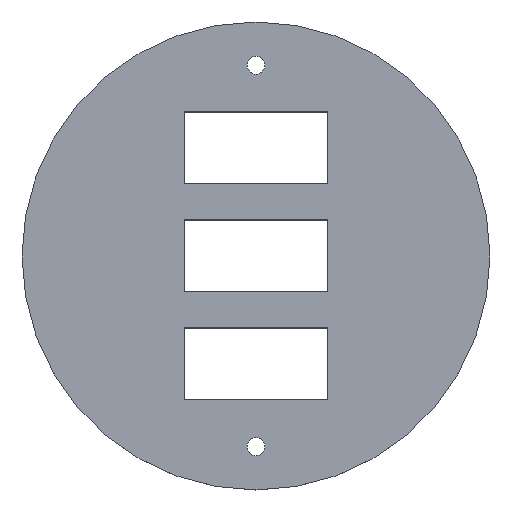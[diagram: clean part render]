
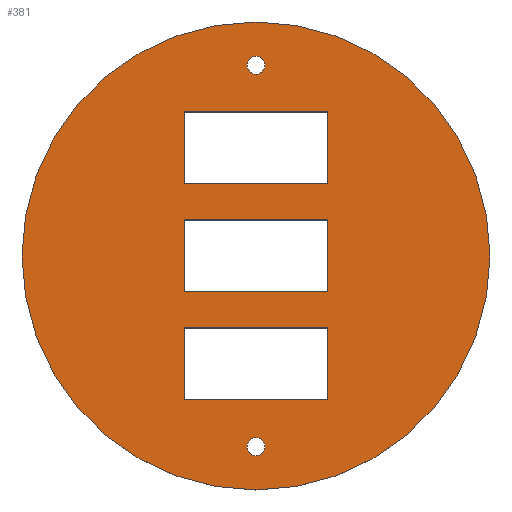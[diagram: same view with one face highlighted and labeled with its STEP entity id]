
A CAD part, top view. The second image highlights one B-rep face of the part: STEP entity #381.
In plain terms, the highlighted planar face has unit normal (0, 0, 1).
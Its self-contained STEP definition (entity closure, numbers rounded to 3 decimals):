
#18=FACE_BOUND('',#82,.T.);
#19=FACE_BOUND('',#83,.T.);
#20=FACE_BOUND('',#84,.T.);
#21=FACE_BOUND('',#85,.T.);
#22=FACE_BOUND('',#86,.T.);
#40=PLANE('',#428);
#62=FACE_OUTER_BOUND('',#81,.T.);
#81=EDGE_LOOP('',(#332));
#82=EDGE_LOOP('',(#333));
#83=EDGE_LOOP('',(#334));
#84=EDGE_LOOP('',(#335,#336,#337,#338));
#85=EDGE_LOOP('',(#339,#340,#341,#342));
#86=EDGE_LOOP('',(#343,#344,#345,#346));
#97=LINE('',#551,#138);
#101=LINE('',#559,#142);
#104=LINE('',#565,#145);
#107=LINE('',#570,#148);
#109=LINE('',#575,#150);
#113=LINE('',#583,#154);
#116=LINE('',#589,#157);
#119=LINE('',#594,#160);
#121=LINE('',#599,#162);
#125=LINE('',#607,#166);
#128=LINE('',#613,#169);
#131=LINE('',#618,#172);
#138=VECTOR('',#458,10.);
#142=VECTOR('',#464,10.);
#145=VECTOR('',#469,10.);
#148=VECTOR('',#474,10.);
#150=VECTOR('',#478,10.);
#154=VECTOR('',#484,10.);
#157=VECTOR('',#489,10.);
#160=VECTOR('',#494,10.);
#162=VECTOR('',#498,10.);
#166=VECTOR('',#504,10.);
#169=VECTOR('',#509,10.);
#172=VECTOR('',#514,10.);
#177=CIRCLE('',#407,1.25);
#180=CIRCLE('',#412,1.25);
#181=CIRCLE('',#426,32.5);
#185=VERTEX_POINT('',#535);
#188=VERTEX_POINT('',#545);
#189=VERTEX_POINT('',#549);
#190=VERTEX_POINT('',#550);
#193=VERTEX_POINT('',#558);
#195=VERTEX_POINT('',#564);
#197=VERTEX_POINT('',#573);
#198=VERTEX_POINT('',#574);
#201=VERTEX_POINT('',#582);
#203=VERTEX_POINT('',#588);
#205=VERTEX_POINT('',#597);
#206=VERTEX_POINT('',#598);
#209=VERTEX_POINT('',#606);
#211=VERTEX_POINT('',#612);
#213=VERTEX_POINT('',#621);
#219=EDGE_CURVE('',#185,#185,#177,.T.);
#224=EDGE_CURVE('',#188,#188,#180,.T.);
#225=EDGE_CURVE('',#189,#190,#97,.T.);
#229=EDGE_CURVE('',#193,#189,#101,.T.);
#232=EDGE_CURVE('',#195,#193,#104,.T.);
#235=EDGE_CURVE('',#190,#195,#107,.T.);
#237=EDGE_CURVE('',#197,#198,#109,.T.);
#241=EDGE_CURVE('',#201,#197,#113,.T.);
#244=EDGE_CURVE('',#203,#201,#116,.T.);
#247=EDGE_CURVE('',#198,#203,#119,.T.);
#249=EDGE_CURVE('',#205,#206,#121,.T.);
#253=EDGE_CURVE('',#209,#205,#125,.T.);
#256=EDGE_CURVE('',#211,#209,#128,.T.);
#259=EDGE_CURVE('',#206,#211,#131,.T.);
#261=EDGE_CURVE('',#213,#213,#181,.T.);
#332=ORIENTED_EDGE('',*,*,#261,.T.);
#333=ORIENTED_EDGE('',*,*,#219,.T.);
#334=ORIENTED_EDGE('',*,*,#224,.T.);
#335=ORIENTED_EDGE('',*,*,#225,.T.);
#336=ORIENTED_EDGE('',*,*,#235,.T.);
#337=ORIENTED_EDGE('',*,*,#232,.T.);
#338=ORIENTED_EDGE('',*,*,#229,.T.);
#339=ORIENTED_EDGE('',*,*,#237,.T.);
#340=ORIENTED_EDGE('',*,*,#247,.T.);
#341=ORIENTED_EDGE('',*,*,#244,.T.);
#342=ORIENTED_EDGE('',*,*,#241,.T.);
#343=ORIENTED_EDGE('',*,*,#249,.T.);
#344=ORIENTED_EDGE('',*,*,#259,.T.);
#345=ORIENTED_EDGE('',*,*,#256,.T.);
#346=ORIENTED_EDGE('',*,*,#253,.T.);
#381=ADVANCED_FACE('',(#62,#18,#19,#20,#21,#22),#40,.T.);
#407=AXIS2_PLACEMENT_3D('',#537,#442,#443);
#412=AXIS2_PLACEMENT_3D('',#547,#454,#455);
#426=AXIS2_PLACEMENT_3D('',#622,#518,#519);
#428=AXIS2_PLACEMENT_3D('',#626,#523,#524);
#442=DIRECTION('center_axis',(0.,0.,-1.));
#443=DIRECTION('ref_axis',(-1.,0.,0.));
#454=DIRECTION('center_axis',(0.,0.,-1.));
#455=DIRECTION('ref_axis',(-1.,0.,0.));
#458=DIRECTION('',(0.,-1.,0.));
#464=DIRECTION('',(1.,0.,0.));
#469=DIRECTION('',(0.,1.,0.));
#474=DIRECTION('',(-1.,0.,0.));
#478=DIRECTION('',(1.,0.,0.));
#484=DIRECTION('',(0.,1.,0.));
#489=DIRECTION('',(-1.,0.,0.));
#494=DIRECTION('',(0.,-1.,0.));
#498=DIRECTION('',(0.,-1.,0.));
#504=DIRECTION('',(1.,0.,0.));
#509=DIRECTION('',(0.,1.,0.));
#514=DIRECTION('',(-1.,0.,0.));
#518=DIRECTION('center_axis',(0.,0.,1.));
#519=DIRECTION('ref_axis',(1.,0.,0.));
#523=DIRECTION('center_axis',(0.,0.,1.));
#524=DIRECTION('ref_axis',(1.,0.,0.));
#535=CARTESIAN_POINT('',(1.25,-26.5,2.5));
#537=CARTESIAN_POINT('Origin',(0.,-26.5,2.5));
#545=CARTESIAN_POINT('',(1.25,26.5,2.5));
#547=CARTESIAN_POINT('Origin',(0.,26.5,2.5));
#549=CARTESIAN_POINT('',(10.,-10.,2.5));
#550=CARTESIAN_POINT('',(10.,-20.,2.5));
#551=CARTESIAN_POINT('',(10.,-5.,2.5));
#558=CARTESIAN_POINT('',(-10.,-10.,2.5));
#559=CARTESIAN_POINT('',(-5.,-10.,2.5));
#564=CARTESIAN_POINT('',(-10.,-20.,2.5));
#565=CARTESIAN_POINT('',(-10.,-10.,2.5));
#570=CARTESIAN_POINT('',(5.,-20.,2.5));
#573=CARTESIAN_POINT('',(-10.,5.,2.5));
#574=CARTESIAN_POINT('',(10.,5.,2.5));
#575=CARTESIAN_POINT('',(-5.,5.,2.5));
#582=CARTESIAN_POINT('',(-10.,-5.,2.5));
#583=CARTESIAN_POINT('',(-10.,-2.5,2.5));
#588=CARTESIAN_POINT('',(10.,-5.,2.5));
#589=CARTESIAN_POINT('',(5.,-5.,2.5));
#594=CARTESIAN_POINT('',(10.,2.5,2.5));
#597=CARTESIAN_POINT('',(10.,20.,2.5));
#598=CARTESIAN_POINT('',(10.,10.,2.5));
#599=CARTESIAN_POINT('',(10.,10.,2.5));
#606=CARTESIAN_POINT('',(-10.,20.,2.5));
#607=CARTESIAN_POINT('',(-5.,20.,2.5));
#612=CARTESIAN_POINT('',(-10.,10.,2.5));
#613=CARTESIAN_POINT('',(-10.,5.,2.5));
#618=CARTESIAN_POINT('',(5.,10.,2.5));
#621=CARTESIAN_POINT('',(-32.5,0.,2.5));
#622=CARTESIAN_POINT('Origin',(0.,0.,2.5));
#626=CARTESIAN_POINT('Origin',(0.,0.,2.5));
